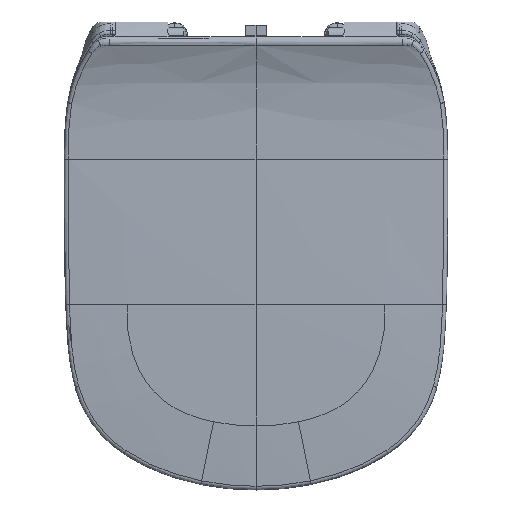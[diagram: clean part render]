
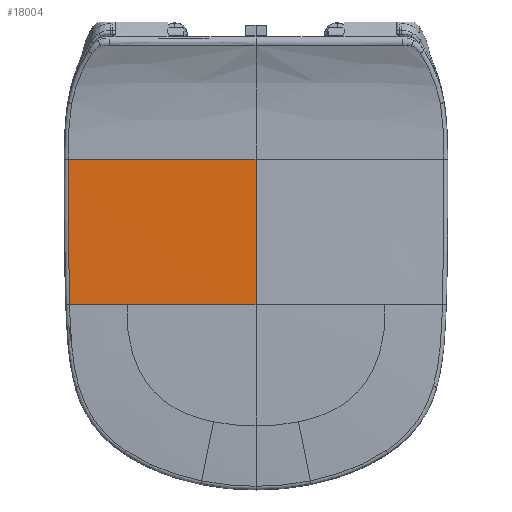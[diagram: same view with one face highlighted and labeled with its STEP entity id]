
A CAD part, top view. The second image highlights one B-rep face of the part: STEP entity #18004.
In plain terms, the highlighted free-form (B-spline) face has degree [3, 3] with [5, 4] control points.
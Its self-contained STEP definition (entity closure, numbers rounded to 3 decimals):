
#2740=CARTESIAN_POINT('',(-179.277,-117.526,
22.065));
#2748=CARTESIAN_POINT('',(-178.007,-256.452,
22.641));
#2795=CARTESIAN_POINT('',(-178.007,-256.452,
22.641));
#2796=CARTESIAN_POINT('',(-159.687,-256.452,
23.597));
#2797=CARTESIAN_POINT('',(-141.366,-256.452,
24.29));
#2798=CARTESIAN_POINT('',(-123.046,-256.452,
24.79));
#2800=CARTESIAN_POINT('',(-179.277,-117.526,
22.065));
#2801=CARTESIAN_POINT('',(-179.411,-140.682,
22.094));
#2802=CARTESIAN_POINT('',(-179.425,-175.418,
22.232));
#2803=CARTESIAN_POINT('',(-178.913,-221.729,
22.484));
#2804=CARTESIAN_POINT('',(-178.399,-244.88,
22.604));
#2805=CARTESIAN_POINT('',(-178.007,-256.452,
22.641));
#2807=CARTESIAN_POINT('',(0.,-256.452,26.069));
#2808=CARTESIAN_POINT('',(0.,-221.781,25.791));
#2809=CARTESIAN_POINT('',(0.,-170.608,
24.915));
#2810=CARTESIAN_POINT('',(0.,-117.526,
23.992));
#2859=CARTESIAN_POINT('',(-179.277,-117.526,
22.065));
#2860=CARTESIAN_POINT('',(-119.958,-117.526,
23.301));
#2861=CARTESIAN_POINT('',(-60.615,-117.526,
23.992));
#2862=CARTESIAN_POINT('',(0.,-117.526,
23.992));
#3734=CARTESIAN_POINT('',(0.,-256.452,26.069));
#3735=CARTESIAN_POINT('',(-41.015,-256.452,
26.069));
#3736=CARTESIAN_POINT('',(-82.031,-256.452,
25.911));
#3737=CARTESIAN_POINT('',(-123.046,-256.452,
24.79));
#9679=VERTEX_POINT('',#2740);
#9680=VERTEX_POINT('',#2748);
#9687=VERTEX_POINT('',#2807);
#9688=VERTEX_POINT('',#2810);
#9689=VERTEX_POINT('',#3737);
#17973=CARTESIAN_POINT('',(-178.008,-256.452,
22.641));
#17974=CARTESIAN_POINT('',(-179.186,-221.781,
22.529));
#17975=CARTESIAN_POINT('',(-179.605,-170.608,
22.129));
#17976=CARTESIAN_POINT('',(-179.33,-117.526,
22.064));
#17977=CARTESIAN_POINT('',(-159.687,-256.452,
23.597));
#17978=CARTESIAN_POINT('',(-160.866,-221.781,
23.408));
#17979=CARTESIAN_POINT('',(-161.285,-170.608,
22.855));
#17980=CARTESIAN_POINT('',(-161.009,-117.526,
22.446));
#17981=CARTESIAN_POINT('',(-100.351,-256.452,
25.84));
#17982=CARTESIAN_POINT('',(-101.523,-221.781,
25.504));
#17983=CARTESIAN_POINT('',(-101.939,-170.608,
24.613));
#17984=CARTESIAN_POINT('',(-101.665,-117.526,
23.514));
#17985=CARTESIAN_POINT('',(-41.015,-256.452,
26.069));
#17986=CARTESIAN_POINT('',(-41.815,-221.781,
25.791));
#17987=CARTESIAN_POINT('',(-42.099,-170.608,
24.915));
#17988=CARTESIAN_POINT('',(-41.912,-117.526,
23.992));
#17989=CARTESIAN_POINT('',(0.,-256.452,26.069));
#17990=CARTESIAN_POINT('',(0.,-221.781,25.791));
#17991=CARTESIAN_POINT('',(0.,-170.608,24.915));
#17992=CARTESIAN_POINT('',(0.,-117.526,23.992));
#17993=B_SPLINE_SURFACE_WITH_KNOTS('',3,3,((#17973,#17974,#17975,#17976),
(#17977,#17978,#17979,#17980),(#17981,#17982,#17983,#17984),(#17985,#17986,
#17987,#17988),(#17989,#17990,#17991,#17992)),.UNSPECIFIED.,.F.,.F.,.F.,(4,1,4),
(4,4),(0.019,0.322,1.),(0.,
0.617),.UNSPECIFIED.);
#17995=ORIENTED_EDGE('',*,*,#17994,.F.);
#17997=ORIENTED_EDGE('',*,*,#17996,.T.);
#17998=ORIENTED_EDGE('',*,*,#17964,.F.);
#17999=ORIENTED_EDGE('',*,*,#17722,.F.);
#18001=ORIENTED_EDGE('',*,*,#18000,.T.);
#18002=EDGE_LOOP('',(#17995,#17997,#17998,#17999,#18001));
#18003=FACE_OUTER_BOUND('',#18002,.F.);
#18004=ADVANCED_FACE('',(#18003),#17993,.T.);
#2799=B_SPLINE_CURVE_WITH_KNOTS('',3,(#2795,#2796,#2797,#2798),.UNSPECIFIED.,
.F.,.F.,(4,4),(0.,1.),.UNSPECIFIED.);
#2806=B_SPLINE_CURVE_WITH_KNOTS('',3,(#2800,#2801,#2802,#2803,#2804,#2805),
.UNSPECIFIED.,.F.,.F.,(4,1,1,4),(0.,0.5,0.75,1.),
.UNSPECIFIED.);
#2811=B_SPLINE_CURVE_WITH_KNOTS('',3,(#2807,#2808,#2809,#2810),.UNSPECIFIED.,
.F.,.F.,(4,4),(0.,1.),.UNSPECIFIED.);
#2863=B_SPLINE_CURVE_WITH_KNOTS('',3,(#2859,#2860,#2861,#2862),.UNSPECIFIED.,
.F.,.F.,(4,4),(0.,1.),.UNSPECIFIED.);
#3738=B_SPLINE_CURVE_WITH_KNOTS('',3,(#3734,#3735,#3736,#3737),.UNSPECIFIED.,
.F.,.F.,(4,4),(0.,1.),.UNSPECIFIED.);
#17722=EDGE_CURVE('',#9679,#9680,#2806,.T.);
#17964=EDGE_CURVE('',#9680,#9689,#2799,.T.);
#17994=EDGE_CURVE('',#9687,#9688,#2811,.T.);
#17996=EDGE_CURVE('',#9687,#9689,#3738,.T.);
#18000=EDGE_CURVE('',#9679,#9688,#2863,.T.);
